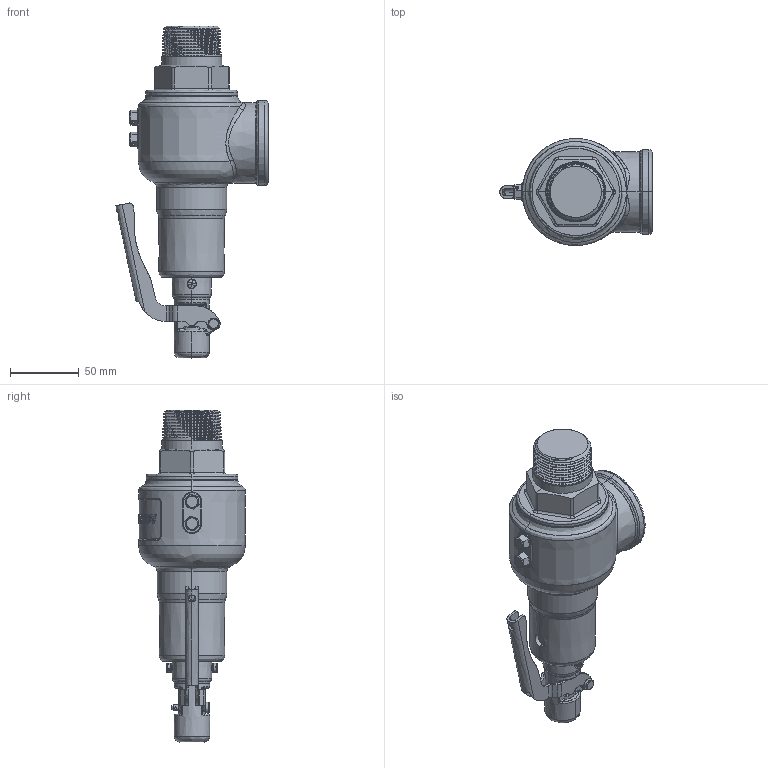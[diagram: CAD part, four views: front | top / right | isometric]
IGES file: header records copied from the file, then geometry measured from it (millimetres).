
Start section: SolidWorks IGES file using analytic representation for surfaces
Global section: file name: C:\Design\Design\Aquatrol\Customer 3D Files\Series 560 Customer Files\Series 560 1250 x 1500\Customer\Series 560 1250 x 1500.IGS; native system: SolidWorks 2015; preprocessor: SolidWorks 2015; author: Karl; date: 141202.103141; units: inch
Bounding box: 110.74 x 77.77 x 241.31 mm (x, y, z)
Surface area: 61734.2 mm2 (no closed solid volume)
Topology: 0 solids, 0 shells, 488 faces, 9064 edges, 9062 vertices
Faces by surface type: bspline 282, revolution 206
